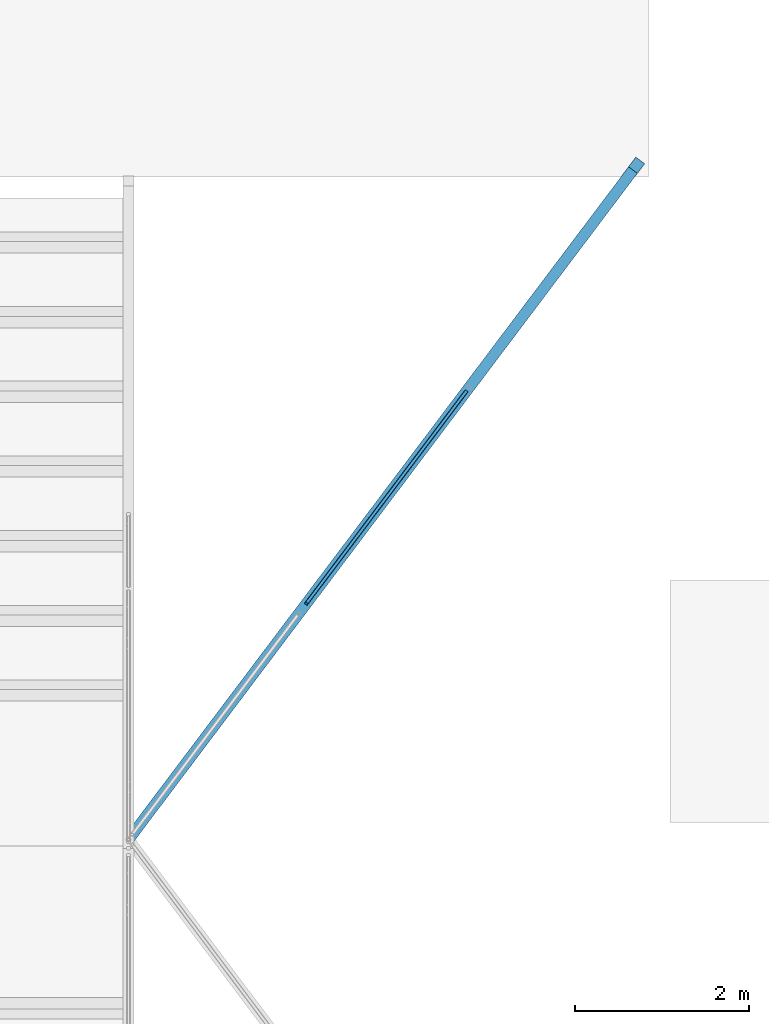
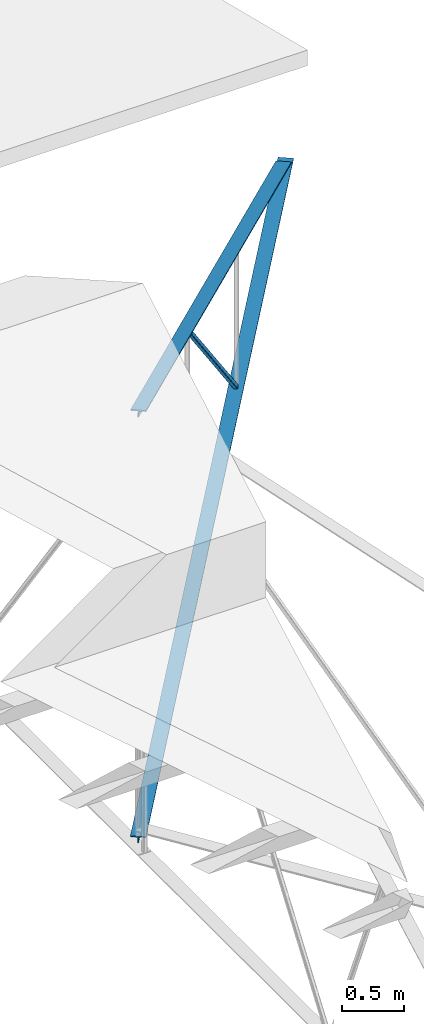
# One storey, part 12 of 15: 2 beams, 1 member, 1 element without a shape of its own.
"""IFC4 building model written with IfcOpenShell, lengths in metres."""

from ifc_helpers import new_model, entity, si_unit, converted_unit, derived_unit, direction, frame, origin, place, context, subcontext, project, spatial, line, arc, indexed_curve, outline, extrude, source, transform, mapped, material, type_object, type_shapes, element, aggregate, save


model = new_model("IFC4")

# Units and contexts
model_context = context("Model", 3, precision=1e-05, world=origin(), true_north=direction((6.123031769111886e-17, 1.0)))
body_context = subcontext(model_context, "Body", "Model", "MODEL_VIEW")
ifc_project = project(units=[si_unit("LENGTHUNIT", "METRE"), si_unit("AREAUNIT", "SQUARE_METRE"), si_unit("VOLUMEUNIT", "CUBIC_METRE"), converted_unit("PLANEANGLEUNIT", "DEGREE", entity("IfcRatioMeasure", 0.017453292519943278), si_unit("PLANEANGLEUNIT", "RADIAN"), dimensions=[0, 0, 0, 0, 0, 0, 0]), si_unit("MASSUNIT", "GRAM", prefix="KILO"), derived_unit("MASSDENSITYUNIT", [(si_unit("MASSUNIT", "GRAM", prefix="KILO"), 1), (si_unit("LENGTHUNIT", "METRE"), -3)]), derived_unit("MOMENTOFINERTIAUNIT", [(si_unit("LENGTHUNIT", "METRE"), 4)]), si_unit("TIMEUNIT", "SECOND"), si_unit("FREQUENCYUNIT", "HERTZ"), si_unit("THERMODYNAMICTEMPERATUREUNIT", "DEGREE_CELSIUS"), derived_unit("THERMALTRANSMITTANCEUNIT", [(si_unit("MASSUNIT", "GRAM", prefix="KILO"), 1), (si_unit("THERMODYNAMICTEMPERATUREUNIT", "KELVIN"), -1), (si_unit("TIMEUNIT", "SECOND"), -3)]), derived_unit("VOLUMETRICFLOWRATEUNIT", [(si_unit("LENGTHUNIT", "METRE"), 3), (si_unit("TIMEUNIT", "SECOND"), -1)]), derived_unit("MASSFLOWRATEUNIT", [(si_unit("MASSUNIT", "GRAM", prefix="KILO"), 1), (si_unit("TIMEUNIT", "SECOND"), -1)]), derived_unit("ROTATIONALFREQUENCYUNIT", [(si_unit("TIMEUNIT", "SECOND"), -1)]), si_unit("ELECTRICCURRENTUNIT", "AMPERE"), si_unit("ELECTRICVOLTAGEUNIT", "VOLT"), si_unit("POWERUNIT", "WATT"), si_unit("FORCEUNIT", "NEWTON", prefix="KILO"), si_unit("ILLUMINANCEUNIT", "LUX"), si_unit("LUMINOUSFLUXUNIT", "LUMEN"), si_unit("LUMINOUSINTENSITYUNIT", "CANDELA"), derived_unit("USERDEFINED", [(si_unit("MASSUNIT", "GRAM", prefix="KILO"), -1), (si_unit("LENGTHUNIT", "METRE"), -2), (si_unit("TIMEUNIT", "SECOND"), 3), (si_unit("LUMINOUSFLUXUNIT", "LUMEN"), 1)]), derived_unit("SOUNDPOWERUNIT", [(si_unit("MASSUNIT", "GRAM", prefix="KILO"), 1), (si_unit("LENGTHUNIT", "METRE"), 2), (si_unit("TIMEUNIT", "SECOND"), -3)]), derived_unit("SOUNDPRESSUREUNIT", [(si_unit("MASSUNIT", "GRAM", prefix="KILO"), 1), (si_unit("LENGTHUNIT", "METRE"), -1), (si_unit("TIMEUNIT", "SECOND"), -2)]), derived_unit("LINEARVELOCITYUNIT", [(si_unit("LENGTHUNIT", "METRE"), 1), (si_unit("TIMEUNIT", "SECOND"), -1)]), si_unit("PRESSUREUNIT", "PASCAL"), derived_unit("USERDEFINED", [(si_unit("LENGTHUNIT", "METRE"), -2), (si_unit("MASSUNIT", "GRAM", prefix="KILO"), 1), (si_unit("TIMEUNIT", "SECOND"), -2)]), derived_unit("LINEARFORCEUNIT", [(si_unit("MASSUNIT", "GRAM", prefix="KILO"), 1), (si_unit("LENGTHUNIT", "METRE"), 1), (si_unit("TIMEUNIT", "SECOND"), -2), (si_unit("LENGTHUNIT", "METRE"), -1)]), derived_unit("PLANARFORCEUNIT", [(si_unit("MASSUNIT", "GRAM", prefix="KILO"), 1), (si_unit("LENGTHUNIT", "METRE"), 1), (si_unit("TIMEUNIT", "SECOND"), -2), (si_unit("LENGTHUNIT", "METRE"), -2)])], contexts=[model_context])

# Site, building, storey
site_placement = place(None, origin())
site = spatial("IfcSite", under=ifc_project, at=site_placement, Name="Superficie", CompositionType="ELEMENT")
building_placement = place(site_placement, origin())
building = spatial("IfcBuilding", under=site, at=building_placement, CompositionType="ELEMENT")
storey_placement = place(building_placement, frame((0.0, 0.0, 7.25)))
storey = spatial("IfcBuildingStorey", under=building, at=storey_placement, Name="Nivel 2", CompositionType="ELEMENT", Elevation=7.25)

# Assembly, beams, member
assembly_placement = place(storey_placement, origin())
assembly = element("IfcElementAssembly", 1, at=assembly_placement, inside=storey, Name="Cercha esquina:Cercha esquina", ObjectType="Cercha esquina:Cercha esquina", AssemblyPlace="NOTDEFINED", PredefinedType="TRUSS")
ifc_material = material(Name="Metal - Acero - 345 MPa", Category="Metal")
beam_type_1 = type_object("IfcBeamType", Name="MT-T estructural:MT65X14.05", PredefinedType="BEAM", material=ifc_material)
shared_shape_1 = source(origin(), body_context, "Body", "SweptSolid", [
    extrude(outline(indexed_curve([(-0.019739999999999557, -0.06349999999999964), (-0.009140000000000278, -0.06349999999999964), (-0.009140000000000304, -0.007400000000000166), (-0.008144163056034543, -0.0049958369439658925), (-0.005740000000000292, -0.004000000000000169), (0.04376000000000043, -0.004000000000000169), (0.04376000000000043, 0.003999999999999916), (-0.0057400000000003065, 0.00399999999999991), (-0.008144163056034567, 0.0049958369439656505), (-0.009140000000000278, 0.007399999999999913), (-0.009140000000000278, 0.06350000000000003), (-0.019739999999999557, 0.06350000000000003)], segments=[line(1, 2, 3), arc(3, 4, 5), line(5, 6, 7, 8), arc(8, 9, 10), line(10, 11, 12, 1)], self_intersect=False)), frame((-4.900999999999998, 0.0, 0.012009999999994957), z_axis=(1.0, 0.0, 0.0), x_axis=(0.0, 0.0, -1.0)), (0.0, 0.0, 1.0), 9.794),
])
type_shapes(beam_type_1, [shared_shape_1])
beam_1_placement = place(assembly_placement, frame((17.542073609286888, 2.0495558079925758, 0.15256978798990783), z_axis=(0.006684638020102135, 0.008870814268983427, 0.9999383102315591), x_axis=(-0.6017778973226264, -0.7985862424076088, 0.011107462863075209)))
beam_1 = element("IfcBeam", 2, at=beam_1_placement, type_object=beam_type_1, material=ifc_material, Name="MT-T estructural:MT65X14.05", ObjectType="MT-T estructural:MT65X14.05", PredefinedType="BEAM", context=body_context, shape_type="MappedRepresentation", body=[
    mapped(shared_shape_1, transform((0.0, 0.0, 0.0), scale=1.0)),
])
beam_type_2 = type_object("IfcBeamType", Name="MT-T estructural:MT65X14.05", PredefinedType="BEAM", material=ifc_material)
shared_shape_2 = source(origin(), body_context, "Body", "SweptSolid", [
    extrude(outline(indexed_curve([(-0.019739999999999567, -0.06349999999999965), (-0.009140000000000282, -0.06349999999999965), (-0.00914000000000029, -0.007400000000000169), (-0.008144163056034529, -0.004995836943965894), (-0.0057400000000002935, -0.004000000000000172), (0.043760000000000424, -0.004000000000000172), (0.043760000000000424, 0.003999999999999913), (-0.0057400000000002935, 0.0039999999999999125), (-0.008144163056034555, 0.004995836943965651), (-0.009140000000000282, 0.00739999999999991), (-0.009140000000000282, 0.06350000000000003), (-0.019739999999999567, 0.06350000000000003)], segments=[line(1, 2, 3), arc(3, 4, 5), line(5, 6, 7, 8), arc(8, 9, 10), line(10, 11, 12, 1)], self_intersect=False)), frame((-5.189499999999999, 0.0, 0.012009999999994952), z_axis=(1.0, 0.0, 0.0), x_axis=(0.0, 0.0, -1.0)), (0.0, 0.0, 1.0), 10.536),
])
type_shapes(beam_type_2, [shared_shape_2])
beam_2_placement = place(assembly_placement, frame((17.542073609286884, 2.0495558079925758, 2.253461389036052), z_axis=(0.24259027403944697, 0.32192816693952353, 0.9151569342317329), x_axis=(-0.5507551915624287, -0.7308768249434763, 0.4030977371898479)))
beam_2 = element("IfcBeam", 3, at=beam_2_placement, type_object=beam_type_2, material=ifc_material, Name="MT-T estructural:MT65X14.05", ObjectType="MT-T estructural:MT65X14.05", PredefinedType="BEAM", context=body_context, shape_type="MappedRepresentation", body=[
    mapped(shared_shape_2, transform((0.0, 0.0, 0.0), scale=1.0)),
])
member_type = type_object("IfcMemberType", Name="HSS-Sección estructural hueca:HSS41.3X41.3X4.8", PredefinedType="BRACE", material=ifc_material)
shared_shape_3 = source(origin(), body_context, "Body", "SweptSolid", [
    extrude(outline(indexed_curve([(-0.011809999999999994, -0.020650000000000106), (0.011809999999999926, -0.020650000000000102), (0.01806082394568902, -0.01806082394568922), (0.020649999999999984, -0.011810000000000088), (0.020649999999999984, 0.011810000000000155), (0.018060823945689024, 0.018060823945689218), (0.011809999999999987, 0.0206500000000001), (-0.011809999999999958, 0.0206500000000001), (-0.01806082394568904, 0.018060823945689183), (-0.020649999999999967, 0.011810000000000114), (-0.020649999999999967, -0.01181000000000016), (-0.018060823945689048, -0.018060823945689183)], segments=[line(1, 2), arc(2, 3, 4), line(4, 5), arc(5, 6, 7), line(7, 8), arc(8, 9, 10), line(10, 11), arc(11, 12, 1)], self_intersect=False), holes=[indexed_curve([(-0.01623000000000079, 0.01180999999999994), (-0.014935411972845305, 0.014935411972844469), (-0.011810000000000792, 0.016229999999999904), (0.01180999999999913, 0.016229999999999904), (0.01493541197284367, 0.014935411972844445), (0.01622999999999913, 0.01180999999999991), (0.01622999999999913, -0.011809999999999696), (0.014935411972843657, -0.014935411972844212), (0.01180999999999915, -0.01622999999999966), (-0.011810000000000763, -0.01622999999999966), (-0.014935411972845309, -0.01493541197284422), (-0.01623000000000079, -0.011809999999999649)], segments=[arc(1, 2, 3), line(3, 4), arc(4, 5, 6), line(6, 7), arc(7, 8, 9), line(9, 10), arc(10, 11, 12), line(12, 1)], self_intersect=False)]), frame((-2.0755000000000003, 0.0, 0.0), z_axis=(1.0, 0.0, 0.0), x_axis=(0.0, 0.0, -1.0)), (0.0, 0.0, 1.0), 4.050000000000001),
])
type_shapes(member_type, [shared_shape_3])
member_placement = place(assembly_placement, frame((17.542073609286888, 2.049555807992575, 1.5531641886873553), z_axis=(-0.3949663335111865, -0.5241380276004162, -0.754507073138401), x_axis=(-0.45407369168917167, -0.602576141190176, 0.6562919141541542)))
member = element("IfcMember", 4, at=member_placement, type_object=member_type, material=ifc_material, Name="HSS-Sección estructural hueca:HSS41.3X41.3X4.8", ObjectType="HSS-Sección estructural hueca:HSS41.3X41.3X4.8", PredefinedType="BRACE", context=body_context, shape_type="MappedRepresentation", body=[
    mapped(shared_shape_3, transform((0.0, 0.0, 0.0), scale=1.0)),
])
aggregate(assembly, [beam_1, beam_2, member])

save(model, "model.ifc")
